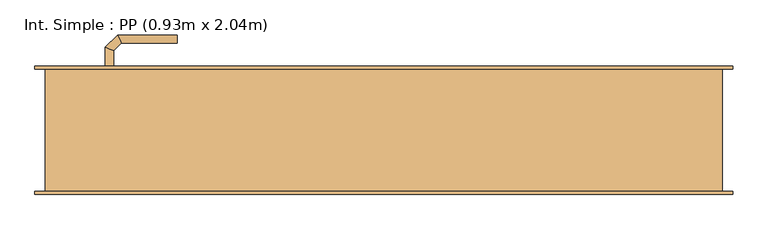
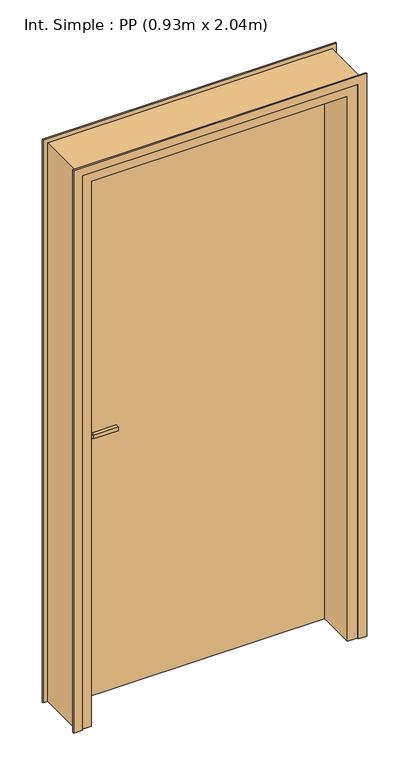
"""IFC4 building model written with IfcOpenShell, lengths in millimetres: door geometry, Int. Simple : PP (0.93m x 2.04m)."""

from ifc_helpers import new_model, si_unit, point, frame, frame_2d, origin, origin_with_axes, place, context, project, spatial, polyline, circle_curve, ellipse_curve, trimmed, segment, composite_curve, outline, extrude, faceted_brep, source, transform, mapped, element, save
from ifc_brep_helpers import plane_surface, cylinder_surface, advanced_brep


def int_simple_pp_0_93m_x_2_04m_fca377b9(model_context):
    return source(origin(), model_context, "Body", "SolidModel", [
        extrude(outline(composite_curve([segment(trimmed(circle_curve(frame_2d((904.6410162, -440.0)), 40.0), [point((870.0, -460.0))], [point((870.0, -420.0))], False, "CARTESIAN"), True, "CONTINUOUS"), segment(polyline([(870.0, -420.0), (1080.0, -420.0)]), True, "CONTINUOUS"), segment(trimmed(circle_curve(frame_2d((1045.3589838, -440.0)), 40.0), [point((1080.0, -420.0))], [point((1080.0, -460.0))], False, "CARTESIAN"), True, "CONTINUOUS"), segment(polyline([(1080.0, -460.0), (870.0, -460.0)]), True, "CONTINUOUS")], self_intersect=False)), frame((0.0, 90.0, 0.0), z_axis=(0.0, 1.0, 0.0), x_axis=(0.0, 0.0, 1.0)), (0.0, 0.0, 1.0), 5.0),
        extrude(outline(composite_curve([segment(trimmed(circle_curve(frame_2d((1045.3589838, -440.0)), 40.0), [point((1080.0, -420.0))], [point((1080.0, -460.0))], False, "CARTESIAN"), True, "CONTINUOUS"), segment(polyline([(1080.0, -460.0), (870.0, -460.0)]), True, "CONTINUOUS"), segment(trimmed(circle_curve(frame_2d((904.6410162, -440.0)), 40.0), [point((870.0, -460.0))], [point((870.0, -420.0))], False, "CARTESIAN"), True, "CONTINUOUS"), segment(polyline([(870.0, -420.0), (1080.0, -420.0)]), True, "CONTINUOUS")], self_intersect=False)), frame((0.0, 45.0, 0.0), z_axis=(0.0, 1.0, 0.0), x_axis=(0.0, 0.0, 1.0)), (0.0, 0.0, 1.0), 5.0),
        advanced_brep(
        [(-446.0, 95.0, 1007.0), (-446.0, 95.0, 993.0), (-434.0, 95.0, 993.0), (-434.0, 95.0, 1007.0), (-434.0, 117.680388, 1007.0), (-446.0, 122.6509507, 1007.0), (-434.0, 117.680388, 993.0), (-446.0, 122.6509507, 993.0), (-422.6522273, 129.0281607, 1007.0), (-427.62279, 141.0281607, 1007.0), (-422.6522273, 129.0281607, 993.0), (-427.62279, 141.0281607, 993.0), (-339.9813594, 141.0281607, 1007.0), (-339.9813594, 129.0281607, 1007.0), (-339.9813594, 129.0281607, 993.0), (-339.9813594, 141.0281607, 993.0)],
        [
            (0, 1),
            (1, 2, circle_curve(frame((-440.0, 95.0, 1013.0457722), z_axis=(0.0, -1.0, 0.0), x_axis=(1.0, 0.0, 0.0)), 20.9244589)),
            (2, 3),
            (3, 0, circle_curve(frame((-440.0, 95.0, 986.9542278), z_axis=(0.0, -1.0, 0.0), x_axis=(1.0, 0.0, 0.0)), 20.9244589)),
            (3, 4),
            (4, 5, ellipse_curve(frame((-440.0, 120.1656693, 986.9542278), z_axis=(-0.3826834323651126, -0.9238795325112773, 0.0), x_axis=(0.9238795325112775, -0.38268343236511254, 0.0)), 22.6484711, 20.9244589)),
            (5, 0),
            (2, 6),
            (6, 4),
            (1, 7),
            (7, 6, ellipse_curve(frame((-440.0, 120.1656693, 1013.0457722), z_axis=(-0.3826834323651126, -0.9238795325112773, 0.0), x_axis=(0.9238795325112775, -0.38268343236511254, 0.0)), 22.6484711, 20.9244589)),
            (5, 7),
            (4, 8),
            (8, 9, ellipse_curve(frame((-425.1375086, 135.0281607, 986.9542278), z_axis=(-0.9238795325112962, -0.38268343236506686, 0.0), x_axis=(0.3826834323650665, -0.9238795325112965, 0.0)), 22.6484711, 20.9244589)),
            (9, 5),
            (6, 10),
            (10, 8),
            (7, 11),
            (11, 10, ellipse_curve(frame((-425.1375086, 135.0281607, 1013.0457722), z_axis=(-0.9238795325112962, -0.38268343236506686, 0.0), x_axis=(0.3826834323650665, -0.9238795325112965, 0.0)), 22.6484711, 20.9244589)),
            (9, 11),
            (12, 13, circle_curve(frame((-339.9813594, 135.0281607, 986.9542278), z_axis=(1.0, 0.0, 0.0), x_axis=(0.0, -1.0, 0.0)), 20.9244589)),
            (13, 14),
            (14, 15, circle_curve(frame((-339.9813594, 135.0281607, 1013.0457722), z_axis=(1.0, 0.0, 0.0), x_axis=(0.0, -1.0, 0.0)), 20.9244589)),
            (15, 12),
            (8, 13),
            (12, 9),
            (10, 14),
            (11, 15),
        ],
        [
            plane_surface(frame((-449.2195445, 95.0, 1000.0), z_axis=(0.0, -1.0, 0.0), x_axis=(0.0, 0.0, -1.0))),
            cylinder_surface(frame((-440.0, 95.0, 986.9542278), z_axis=(0.0, -1.0, 0.0), x_axis=(1.0, 0.0, 0.0)), 20.9244589),
            plane_surface(frame((-434.0, 95.0, 1007.0), z_axis=(1.0, 0.0, 0.0), x_axis=(0.0, 1.0, 0.0))),
            cylinder_surface(frame((-440.0, 95.0, 1013.0457722), z_axis=(0.0, -1.0, 0.0), x_axis=(1.0, 0.0, 0.0)), 20.9244589),
            plane_surface(frame((-446.0, 95.0, 993.0), z_axis=(-1.0, 0.0, 0.0), x_axis=(0.0, 1.0, 0.0))),
            cylinder_surface(frame((-440.0, 120.1656693, 986.9542278), z_axis=(-0.7071067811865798, -0.7071067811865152, 0.0), x_axis=(0.7071067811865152, -0.7071067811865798, 0.0)), 20.9244589),
            plane_surface(frame((-434.0, 117.680388, 1007.0), z_axis=(0.7071067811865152, -0.7071067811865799, 0.0), x_axis=(0.7071067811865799, 0.7071067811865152, 0.0))),
            cylinder_surface(frame((-440.0, 120.1656693, 1013.0457722), z_axis=(-0.7071067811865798, -0.7071067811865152, 0.0), x_axis=(0.7071067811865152, -0.7071067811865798, 0.0)), 20.9244589),
            plane_surface(frame((-446.0, 122.6509507, 993.0), z_axis=(-0.7071067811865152, 0.7071067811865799, 0.0), x_axis=(0.7071067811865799, 0.7071067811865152, 0.0))),
            plane_surface(frame((-339.9813594, 135.0281607, 990.7804555), z_axis=(1.0, 0.0, 0.0), x_axis=(0.0, -1.0, 0.0))),
            cylinder_surface(frame((-425.1375086, 135.0281607, 986.9542278), z_axis=(-1.0, 0.0, 0.0), x_axis=(0.0, -1.0, 0.0)), 20.9244589),
            plane_surface(frame((-422.6522273, 129.0281607, 1007.0), z_axis=(0.0, -1.0, 0.0), x_axis=(1.0, 0.0, 0.0))),
            cylinder_surface(frame((-425.1375086, 135.0281607, 1013.0457722), z_axis=(-1.0, 0.0, 0.0), x_axis=(0.0, -1.0, 0.0)), 20.9244589),
            plane_surface(frame((-427.62279, 141.0281607, 993.0), z_axis=(0.0, 1.0, 0.0), x_axis=(1.0, 0.0, 0.0))),
        ],
        [
            (0, [[1, 2, 3, 4]]),
            (1, [[5, 6, 7, -4]]),
            (2, [[8, 9, -5, -3]]),
            (3, [[10, 11, -8, -2]]),
            (4, [[-7, 12, -10, -1]]),
            (5, [[13, 14, 15, -6]]),
            (6, [[16, 17, -13, -9]]),
            (7, [[18, 19, -16, -11]]),
            (8, [[-15, 20, -18, -12]]),
            (9, [[21, 22, 23, 24]]),
            (10, [[25, -21, 26, -14]]),
            (11, [[27, -22, -25, -17]]),
            (12, [[28, -23, -27, -19]]),
            (13, [[-26, -24, -28, -20]]),
        ],
    ),
        advanced_brep(
        [(-434.0, 45.0, 993.0), (-446.0, 45.0, 993.0), (-446.0, 45.0, 1007.0), (-434.0, 45.0, 1007.0), (-434.0, 22.5147955, 1007.0), (-434.0, 22.5147955, 993.0), (-446.0, 17.5442327, 1007.0), (-446.0, 17.5442327, 993.0), (-422.5147186, 11.0295141, 1007.0), (-422.5147186, 11.0295141, 993.0), (-427.4852814, -0.9704859, 1007.0), (-427.4852814, -0.9704859, 993.0), (-339.9542163, 11.0295141, 993.0), (-339.9542163, 11.0295141, 1007.0), (-339.9542163, -0.9704859, 1007.0), (-339.9542163, -0.9704859, 993.0)],
        [
            (0, 1, circle_curve(frame((-440.0, 45.0, 1013.0457722), z_axis=(0.0, 1.0, 0.0), x_axis=(-1.0, 0.0, 0.0)), 20.9244589)),
            (1, 2),
            (2, 3, circle_curve(frame((-440.0, 45.0, 986.9542278), z_axis=(0.0, 1.0, 0.0), x_axis=(-1.0, 0.0, 0.0)), 20.9244589)),
            (3, 0),
            (3, 4),
            (4, 5),
            (5, 0),
            (2, 6),
            (6, 4, ellipse_curve(frame((-440.0, 20.0295141, 986.9542278), z_axis=(-0.3826834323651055, 0.9238795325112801, 0.0), x_axis=(0.9238795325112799, 0.3826834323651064, 0.0)), 22.6484711, 20.9244589)),
            (1, 7),
            (7, 6),
            (5, 7, ellipse_curve(frame((-440.0, 20.0295141, 1013.0457722), z_axis=(-0.3826834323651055, 0.9238795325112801, 0.0), x_axis=(0.9238795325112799, 0.3826834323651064, 0.0)), 22.6484711, 20.9244589)),
            (4, 8),
            (8, 9),
            (9, 5),
            (6, 10),
            (10, 8, ellipse_curve(frame((-425.0, 5.0295141, 986.9542278), z_axis=(-0.9238795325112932, 0.382683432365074, 0.0), x_axis=(0.3826834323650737, 0.9238795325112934, 0.0)), 22.6484711, 20.9244589)),
            (7, 11),
            (11, 10),
            (9, 11, ellipse_curve(frame((-425.0, 5.0295141, 1013.0457722), z_axis=(-0.9238795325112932, 0.382683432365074, 0.0), x_axis=(0.3826834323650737, 0.9238795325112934, 0.0)), 22.6484711, 20.9244589)),
            (12, 13),
            (13, 14, circle_curve(frame((-339.9542163, 5.0295141, 986.9542278), z_axis=(1.0, 0.0, 0.0), x_axis=(0.0, -1.0, 0.0)), 20.9244589)),
            (14, 15),
            (15, 12, circle_curve(frame((-339.9542163, 5.0295141, 1013.0457722), z_axis=(1.0, 0.0, 0.0), x_axis=(0.0, -1.0, 0.0)), 20.9244589)),
            (8, 13),
            (12, 9),
            (10, 14),
            (11, 15),
        ],
        [
            plane_surface(frame((-449.2195445, 45.0, 1000.0), z_axis=(0.0, 1.0, 0.0), x_axis=(0.0, 0.0, 1.0))),
            plane_surface(frame((-434.0, 45.0, 993.0), z_axis=(1.0, 0.0, 0.0), x_axis=(0.0, -1.0, 0.0))),
            cylinder_surface(frame((-440.0, 45.0, 986.9542278), z_axis=(0.0, 1.0, 0.0), x_axis=(-1.0, 0.0, 0.0)), 20.9244589),
            plane_surface(frame((-446.0, 45.0, 1007.0), z_axis=(-1.0, 0.0, 0.0), x_axis=(0.0, -1.0, 0.0))),
            cylinder_surface(frame((-440.0, 45.0, 1013.0457722), z_axis=(0.0, 1.0, 0.0), x_axis=(-1.0, 0.0, 0.0)), 20.9244589),
            plane_surface(frame((-434.0, 22.5147955, 993.0), z_axis=(0.7071067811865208, 0.7071067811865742, 0.0), x_axis=(0.7071067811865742, -0.7071067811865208, 0.0))),
            cylinder_surface(frame((-440.0, 20.0295141, 986.9542278), z_axis=(-0.7071067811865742, 0.7071067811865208, 0.0), x_axis=(-0.7071067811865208, -0.7071067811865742, 0.0)), 20.9244589),
            plane_surface(frame((-446.0, 17.5442327, 1007.0), z_axis=(-0.7071067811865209, -0.7071067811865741, 0.0), x_axis=(0.7071067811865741, -0.7071067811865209, 0.0))),
            cylinder_surface(frame((-440.0, 20.0295141, 1013.0457722), z_axis=(-0.7071067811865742, 0.7071067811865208, 0.0), x_axis=(-0.7071067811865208, -0.7071067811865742, 0.0)), 20.9244589),
            plane_surface(frame((-339.9542163, 5.0295141, 990.7804555), z_axis=(1.0, 0.0, 0.0), x_axis=(0.0, -1.0, 0.0))),
            plane_surface(frame((-422.5147186, 11.0295141, 993.0), z_axis=(0.0, 1.0, 0.0), x_axis=(1.0, 0.0, 0.0))),
            cylinder_surface(frame((-425.0, 5.0295141, 986.9542278), z_axis=(-1.0, 0.0, 0.0), x_axis=(0.0, -1.0, 0.0)), 20.9244589),
            plane_surface(frame((-427.4852814, -0.9704859, 1007.0), z_axis=(0.0, -1.0, 0.0), x_axis=(1.0, 0.0, 0.0))),
            cylinder_surface(frame((-425.0, 5.0295141, 1013.0457722), z_axis=(-1.0, 0.0, 0.0), x_axis=(0.0, -1.0, 0.0)), 20.9244589),
        ],
        [
            (0, [[1, 2, 3, 4]]),
            (1, [[5, 6, 7, -4]]),
            (2, [[8, 9, -5, -3]]),
            (3, [[10, 11, -8, -2]]),
            (4, [[-7, 12, -10, -1]]),
            (5, [[13, 14, 15, -6]]),
            (6, [[16, 17, -13, -9]]),
            (7, [[18, 19, -16, -11]]),
            (8, [[-15, 20, -18, -12]]),
            (9, [[21, 22, 23, 24]]),
            (10, [[25, -21, 26, -14]]),
            (11, [[27, -22, -25, -17]]),
            (12, [[28, -23, -27, -19]]),
            (13, [[-26, -24, -28, -20]]),
        ],
    ),
        extrude(outline(polyline([(-500.0, 50.0), (-500.0, 90.0), (430.0, 90.0), (430.0, 50.0), (-500.0, 50.0)])), origin_with_axes(), (0.0, 0.0, 1.0), 2040.0),
        faceted_brep([(-535.0, 90.0, 0.0), (-500.0, 90.0, 0.0), (-500.0, 50.0, 0.0), (-485.0, 50.0, 0.0), (-485.0, -90.0, 0.0), (-535.0, -90.0, 0.0), (-535.0, -90.0, 2075.0), (-535.0, 90.0, 2075.0), (-485.0, -90.0, 2025.0), (415.0, -90.0, 2025.0), (415.0, -90.0, 0.0), (465.0, -90.0, 0.0), (465.0, -90.0, 2075.0), (-485.0, 50.0, 2025.0), (-500.0, 50.0, 2040.0), (430.0, 50.0, 2040.0), (430.0, 50.0, 0.0), (415.0, 50.0, 0.0), (415.0, 50.0, 2025.0), (-500.0, 90.0, 2040.0), (465.0, 90.0, 2075.0), (465.0, 90.0, 0.0), (430.0, 90.0, 0.0), (430.0, 90.0, 2040.0)], [[[0, 1, 2, 3, 4, 5]], [[5, 6, 7, 0]], [[4, 8, 9, 10, 11, 12, 6, 5]], [[3, 13, 8, 4]], [[2, 14, 15, 16, 17, 18, 13, 3]], [[1, 19, 14, 2]], [[0, 7, 20, 21, 22, 23, 19, 1]], [[12, 11, 21, 20]], [[21, 11, 10, 17, 16, 22]], [[18, 17, 10, 9]], [[23, 22, 16, 15]], [[6, 12, 20, 7]], [[13, 18, 9, 8]], [[19, 23, 15, 14]]]),
        extrude(outline(polyline([(0.0, -520.0), (2060.0, -520.0), (2060.0, 450.0), (0.0, 450.0), (0.0, 480.0), (2090.0, 480.0), (2090.0, -550.0), (0.0, -550.0), (0.0, -520.0)])), frame((0.0, 90.0, 0.0), z_axis=(0.0, 1.0, 0.0), x_axis=(0.0, 0.0, 1.0)), (0.0, 0.0, 1.0), 5.0),
        extrude(outline(polyline([(0.0, -520.0), (2060.0, -520.0), (2060.0, 450.0), (0.0, 450.0), (0.0, 480.0), (2090.0, 480.0), (2090.0, -550.0), (0.0, -550.0), (0.0, -520.0)])), frame((0.0, -95.0, 0.0), z_axis=(0.0, 1.0, 0.0), x_axis=(0.0, 0.0, 1.0)), (0.0, 0.0, 1.0), 5.0),
    ])


if __name__ == "__main__":
    model = new_model("IFC4")
    model_context = context("Model", 3, world=origin())
    ifc_project = project(units=[si_unit("LENGTHUNIT", "METRE", prefix="MILLI")], contexts=[model_context])
    site = spatial("IfcSite", under=ifc_project)
    building = spatial("IfcBuilding", under=site)
    placement = place(None, origin())
    int_simple_pp_0_93m_x_2_04m_shape = int_simple_pp_0_93m_x_2_04m_fca377b9(model_context)
    element("IfcDoor", 1, ObjectType="Int. Simple : PP (0.93m x 2.04m)", at=placement, inside=building, context=model_context, shape_type="MappedRepresentation", body=[
        mapped(int_simple_pp_0_93m_x_2_04m_shape, transform((0.0, 0.0, 0.0), x_axis=(1.0, 0.0, 0.0), y_axis=(0.0, 1.0, 0.0), z_axis=(0.0, 0.0, 1.0))),
    ])
    save(model, "model.ifc")
